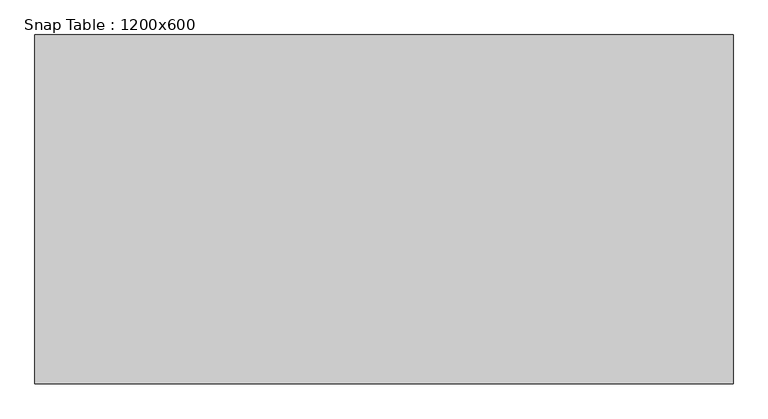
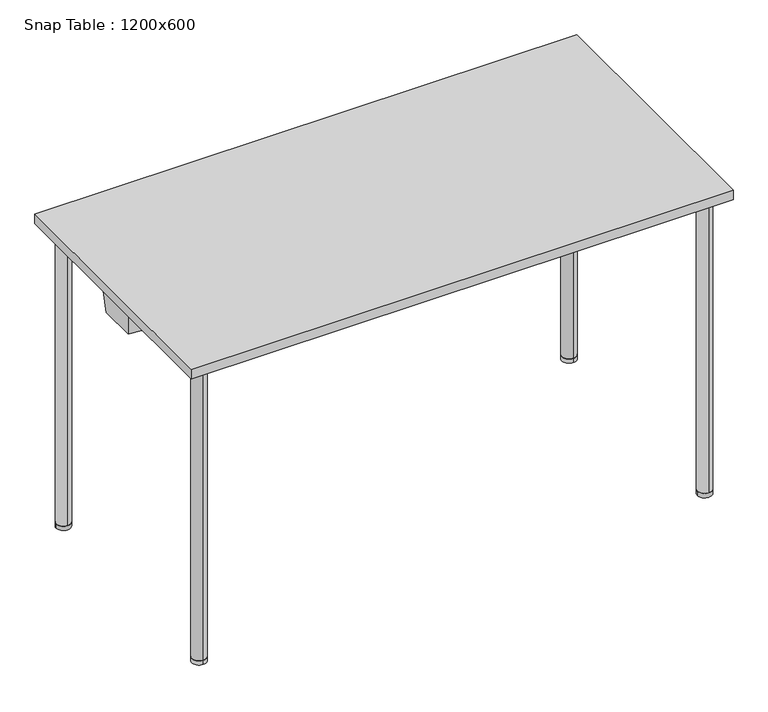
"""IFC4 building model written with IfcOpenShell, lengths in millimetres: furniture geometry, Snap Table : 1200x600."""

from ifc_helpers import new_model, si_unit, point, frame, frame_2d, origin, origin_with_axes, place, context, project, spatial, polyline, circle_curve, ellipse_curve, trimmed, segment, composite_curve, outline, extrude, faceted_brep, source, transform, mapped, element, save
from ifc_brep_helpers import plane_surface, cylinder_surface, revolved_surface, advanced_brep


def snap_table_1200x600_b6a384be(model_context):
    return source(origin(), model_context, "Body", "SolidModel", [
        extrude(outline(composite_curve([segment(trimmed(circle_curve(frame_2d((560.0, -260.0)), 16.0), [point((576.0, -260.0))], [point((544.0, -260.0))], False, "CARTESIAN"), True, "CONTINUOUS"), segment(trimmed(circle_curve(frame_2d((560.0, -260.0)), 16.0), [point((544.0, -260.0))], [point((576.0, -260.0))], False, "CARTESIAN"), True, "CONTINUOUS")], self_intersect=False)), origin_with_axes(), (0.0, 0.0, 1.0), 10.0),
        extrude(outline(composite_curve([segment(trimmed(circle_curve(frame_2d((560.0, 260.0)), 16.0), [point((560.0, 244.0))], [point((560.0, 276.0))], False, "CARTESIAN"), True, "CONTINUOUS"), segment(trimmed(circle_curve(frame_2d((560.0, 260.0)), 16.0), [point((560.0, 276.0))], [point((560.0, 244.0))], False, "CARTESIAN"), True, "CONTINUOUS")], self_intersect=False)), origin_with_axes(), (0.0, 0.0, 1.0), 10.0),
        advanced_brep(
        [(560.0, -276.0, 10.0), (560.0, -244.0, 10.0), (560.0, -276.0, 689.0), (560.0, -244.0, 657.0), (560.0, 276.0, 689.0), (560.0, 244.0, 657.0), (560.0, 276.0, 10.0), (560.0, 244.0, 10.0)],
        [
            (0, 1, circle_curve(frame((560.0, -260.0, 10.0), z_axis=(0.0, 0.0, -1.0), x_axis=(0.0, 1.0, 0.0)), 16.0)),
            (1, 0, circle_curve(frame((560.0, -260.0, 10.0), z_axis=(0.0, 0.0, -1.0), x_axis=(0.0, 1.0, 0.0)), 16.0)),
            (0, 2),
            (2, 3, ellipse_curve(frame((560.0, -260.0, 673.0), z_axis=(0.0, -0.7071067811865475, -0.7071067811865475), x_axis=(0.0, 0.7071067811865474, -0.7071067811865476)), 22.627417, 16.0)),
            (3, 1),
            (3, 2, ellipse_curve(frame((560.0, -260.0, 673.0), z_axis=(0.0, -0.7071067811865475, -0.7071067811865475), x_axis=(0.0, 0.7071067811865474, -0.7071067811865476)), 22.627417, 16.0)),
            (2, 4),
            (4, 5, ellipse_curve(frame((560.0, 260.0, 673.0), z_axis=(0.0, -0.7071067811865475, 0.7071067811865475), x_axis=(0.0, -0.7071067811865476, -0.7071067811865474)), 22.627417, 16.0)),
            (5, 3),
            (5, 4, ellipse_curve(frame((560.0, 260.0, 673.0), z_axis=(0.0, -0.7071067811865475, 0.7071067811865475), x_axis=(0.0, -0.7071067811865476, -0.7071067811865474)), 22.627417, 16.0)),
            (6, 7, circle_curve(frame((560.0, 260.0, 10.0), z_axis=(0.0, 0.0, -1.0), x_axis=(0.0, -1.0, 0.0)), 16.0)),
            (7, 6, circle_curve(frame((560.0, 260.0, 10.0), z_axis=(0.0, 0.0, -1.0), x_axis=(0.0, -1.0, 0.0)), 16.0)),
            (4, 6),
            (7, 5),
        ],
        [
            plane_surface(frame((560.0, -260.0, 10.0), z_axis=(0.0, 0.0, -1.0), x_axis=(-1.0, 0.0, 0.0))),
            cylinder_surface(frame((560.0, -260.0, 10.0), z_axis=(0.0, 0.0, -1.0), x_axis=(0.0, 1.0, 0.0)), 16.0),
            cylinder_surface(frame((560.0, -260.0, 673.0), z_axis=(0.0, -1.0, 0.0), x_axis=(0.0, 0.0, -1.0)), 16.0),
            plane_surface(frame((560.0, 260.0, 10.0), z_axis=(0.0, 0.0, -1.0), x_axis=(-1.0, 0.0, 0.0))),
            cylinder_surface(frame((560.0, 260.0, 673.0), z_axis=(0.0, 0.0, 1.0), x_axis=(0.0, -1.0, 0.0)), 16.0),
        ],
        [
            (0, [[1, 2]]),
            (1, [[-1, 3, 4, 5]]),
            (1, [[-2, -5, 6, -3]]),
            (2, [[-4, 7, 8, 9]]),
            (2, [[-6, -9, 10, -7]]),
            (3, [[11, 12]]),
            (4, [[-8, 13, -12, 14]]),
            (4, [[-10, -14, -11, -13]]),
        ],
    ),
        extrude(outline(composite_curve([segment(trimmed(circle_curve(frame_2d((-560.0470276, 260.0)), 16.0), [point((-576.0470276, 260.0))], [point((-544.0470276, 260.0))], False, "CARTESIAN"), True, "CONTINUOUS"), segment(trimmed(circle_curve(frame_2d((-560.0470276, 260.0)), 16.0), [point((-544.0470276, 260.0))], [point((-576.0470276, 260.0))], False, "CARTESIAN"), True, "CONTINUOUS")], self_intersect=False)), origin_with_axes(), (0.0, 0.0, 1.0), 10.0),
        extrude(outline(composite_curve([segment(trimmed(circle_curve(frame_2d((-560.0470276, -260.0)), 16.0), [point((-560.0470276, -244.0))], [point((-560.0470276, -276.0))], False, "CARTESIAN"), True, "CONTINUOUS"), segment(trimmed(circle_curve(frame_2d((-560.0470276, -260.0)), 16.0), [point((-560.0470276, -276.0))], [point((-560.0470276, -244.0))], False, "CARTESIAN"), True, "CONTINUOUS")], self_intersect=False)), origin_with_axes(), (0.0, 0.0, 1.0), 10.0),
        advanced_brep(
        [(-560.0470276, 276.0, 10.0), (-560.0470276, 244.0, 10.0), (-560.0470276, 276.0, 689.0), (-560.0470276, 244.0, 657.0), (-560.0470276, -276.0, 689.0), (-560.0470276, -244.0, 657.0), (-560.0470276, -276.0, 10.0), (-560.0470276, -244.0, 10.0)],
        [
            (0, 1, circle_curve(frame((-560.0470276, 260.0, 10.0), z_axis=(0.0, 0.0, -1.0), x_axis=(0.0, -1.0, 0.0)), 16.0)),
            (1, 0, circle_curve(frame((-560.0470276, 260.0, 10.0), z_axis=(0.0, 0.0, -1.0), x_axis=(0.0, -1.0, 0.0)), 16.0)),
            (0, 2),
            (2, 3, ellipse_curve(frame((-560.0470276, 260.0, 673.0), z_axis=(0.0, 0.7071067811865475, -0.7071067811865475), x_axis=(0.0, -0.7071067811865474, -0.7071067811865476)), 22.627417, 16.0)),
            (3, 1),
            (3, 2, ellipse_curve(frame((-560.0470276, 260.0, 673.0), z_axis=(0.0, 0.7071067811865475, -0.7071067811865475), x_axis=(0.0, -0.7071067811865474, -0.7071067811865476)), 22.627417, 16.0)),
            (2, 4),
            (4, 5, ellipse_curve(frame((-560.0470276, -260.0, 673.0), z_axis=(0.0, 0.7071067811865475, 0.7071067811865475), x_axis=(0.0, 0.7071067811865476, -0.7071067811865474)), 22.627417, 16.0)),
            (5, 3),
            (5, 4, ellipse_curve(frame((-560.0470276, -260.0, 673.0), z_axis=(0.0, 0.7071067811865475, 0.7071067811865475), x_axis=(0.0, 0.7071067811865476, -0.7071067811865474)), 22.627417, 16.0)),
            (6, 7, circle_curve(frame((-560.0470276, -260.0, 10.0), z_axis=(0.0, 0.0, -1.0), x_axis=(0.0, 1.0, 0.0)), 16.0)),
            (7, 6, circle_curve(frame((-560.0470276, -260.0, 10.0), z_axis=(0.0, 0.0, -1.0), x_axis=(0.0, 1.0, 0.0)), 16.0)),
            (4, 6),
            (7, 5),
        ],
        [
            plane_surface(frame((-560.0470276, 260.0, 10.0), z_axis=(0.0, 0.0, -1.0), x_axis=(1.0, 0.0, 0.0))),
            cylinder_surface(frame((-560.0470276, 260.0, 10.0), z_axis=(0.0, 0.0, -1.0), x_axis=(0.0, -1.0, 0.0)), 16.0),
            cylinder_surface(frame((-560.0470276, 260.0, 673.0), z_axis=(0.0, 1.0, 0.0), x_axis=(0.0, 0.0, -1.0)), 16.0),
            plane_surface(frame((-560.0470276, -260.0, 10.0), z_axis=(0.0, 0.0, -1.0), x_axis=(1.0, 0.0, 0.0))),
            cylinder_surface(frame((-560.0470276, -260.0, 673.0), z_axis=(0.0, 0.0, 1.0), x_axis=(0.0, 1.0, 0.0)), 16.0),
        ],
        [
            (0, [[1, 2]]),
            (1, [[-1, 3, 4, 5]]),
            (1, [[-2, -5, 6, -3]]),
            (2, [[-4, 7, 8, 9]]),
            (2, [[-6, -9, 10, -7]]),
            (3, [[11, 12]]),
            (4, [[-8, 13, -12, 14]]),
            (4, [[-10, -14, -11, -13]]),
        ],
    ),
        extrude(outline(polyline([(600.0, 300.0), (600.0, -300.0), (-600.0, -300.0), (-600.0, 300.0), (600.0, 300.0)])), frame((0.0, 0.0, 698.0), z_axis=(0.0, 0.0, 1.0), x_axis=(1.0, 0.0, 0.0)), (0.0, 0.0, 1.0), 22.0),
        advanced_brep(
        [(-590.8110657, 42.2236058, 643.0), (-557.6910354, 44.5767873, 643.0), (-540.5708933, 36.0824003, 643.0), (540.5710292, 36.0824678, 643.0), (557.6910354, 44.5767873, 643.0), (590.8110657, 42.2236058, 643.0), (590.8110657, -42.2236058, 643.0), (557.6044607, -44.2417031, 643.0), (540.4018781, -36.0497649, 643.0), (-540.4020196, -36.0498323, 643.0), (-557.6044607, -44.2417031, 643.0), (-590.8110657, -42.2236058, 643.0), (-594.8110657, 48.9570516, 698.0), (-594.8110657, -48.9934252, 698.0), (-556.225892, -51.3383995, 698.0), (-534.6205129, -41.049832, 698.0), (534.6203726, -41.0497653, 698.0), (556.225892, -51.3383995, 698.0), (594.8110657, -48.9934252, 698.0), (594.8110657, 48.9570516, 698.0), (556.286594, 51.6942192, 698.0), (534.8989768, 41.0824675, 698.0), (-534.8988421, 41.0824007, 698.0), (-556.286594, 51.6942192, 698.0), (-557.2475737, -46.0789118, 657.2385232), (-576.0, -46.9489596, 673.0), (-556.4614069, -50.125999, 688.6037931), (-544.0, -41.9922101, 673.0), (557.2475737, -46.0789118, 657.2385232), (544.0, -41.9922101, 673.0), (556.4614069, -50.125999, 688.6037931), (576.0, -46.9489596, 673.0), (557.3278029, 46.4175782, 657.2247231), (576.0, 47.1037405, 673.0), (556.5261576, 50.4801582, 688.618336), (544.0, 42.0461233, 673.0), (-557.3278029, 46.4175782, 657.2247231), (-544.0, 42.0461233, 673.0), (-556.5261576, 50.4801582, 688.618336), (-576.0, 47.1037405, 673.0)],
        [
            (0, 1),
            (1, 2),
            (2, 3),
            (3, 4),
            (4, 5),
            (5, 6),
            (6, 7),
            (7, 8),
            (8, 9),
            (9, 10),
            (10, 11),
            (11, 0),
            (12, 13),
            (13, 14),
            (14, 15),
            (15, 16),
            (16, 17),
            (17, 18),
            (18, 19),
            (19, 20),
            (20, 21),
            (21, 22),
            (22, 23),
            (23, 12),
            (11, 13),
            (12, 0),
            (10, 24),
            (24, 25, ellipse_curve(frame((-560.0, -47.9213432, 673.0), z_axis=(0.060176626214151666, 0.9901710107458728, 0.12625427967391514), x_axis=(0.42602826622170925, -0.13986196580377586, 0.893833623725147)), 16.1588249, 16.0)),
            (25, 26, ellipse_curve(frame((-560.0, -47.9213432, 673.0), z_axis=(0.060176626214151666, 0.9901710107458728, 0.12625427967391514), x_axis=(0.42602826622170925, -0.13986196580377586, 0.893833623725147)), 16.1588249, 16.0)),
            (26, 14),
            (9, 15),
            (26, 27, ellipse_curve(frame((-560.0, -49.6114737, 673.0), z_axis=(-0.426503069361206, 0.895631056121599, 0.1262542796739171), x_axis=(-0.8587935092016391, -0.4447977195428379, 0.2542217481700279)), 17.8644989, 16.0)),
            (27, 24, ellipse_curve(frame((-560.0, -49.6114737, 673.0), z_axis=(-0.426503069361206, 0.895631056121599, 0.1262542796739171), x_axis=(-0.8587935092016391, -0.4447977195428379, 0.2542217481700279)), 17.8644989, 16.0)),
            (8, 16),
            (7, 28),
            (28, 29, ellipse_curve(frame((560.0, -49.6114737, 673.0), z_axis=(0.42650306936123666, 0.8956310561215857, 0.1262542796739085), x_axis=(0.858793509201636, -0.4447977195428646, 0.2542217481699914)), 17.8644989, 16.0)),
            (29, 30, ellipse_curve(frame((560.0, -49.6114737, 673.0), z_axis=(0.42650306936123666, 0.8956310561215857, 0.1262542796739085), x_axis=(0.858793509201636, -0.4447977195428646, 0.2542217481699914)), 17.8644989, 16.0)),
            (30, 17),
            (6, 18),
            (30, 31, ellipse_curve(frame((560.0, -47.9213432, 673.0), z_axis=(-0.06017662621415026, 0.9901710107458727, 0.1262542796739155), x_axis=(-0.4260282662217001, -0.13986196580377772, 0.8938336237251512)), 16.1588249, 16.0)),
            (31, 28, ellipse_curve(frame((560.0, -47.9213432, 673.0), z_axis=(-0.06017662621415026, 0.9901710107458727, 0.1262542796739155), x_axis=(-0.4260282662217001, -0.13986196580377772, 0.8938336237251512)), 16.1588249, 16.0)),
            (5, 19),
            (4, 32),
            (32, 33, ellipse_curve(frame((560.0, 48.2405422, 673.0), z_axis=(-0.07030432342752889, -0.9895034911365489, 0.1262542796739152), x_axis=(0.48139832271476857, -0.14450896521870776, -0.8645072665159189)), 16.1697257, 16.0)),
            (33, 34, ellipse_curve(frame((560.0, 48.2405422, 673.0), z_axis=(-0.07030432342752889, -0.9895034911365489, 0.1262542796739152), x_axis=(0.48139832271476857, -0.14450896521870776, -0.8645072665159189)), 16.1697257, 16.0)),
            (34, 20),
            (3, 21),
            (34, 35, ellipse_curve(frame((560.0, 49.9847369, 673.0), z_axis=(0.44090536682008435, -0.8886294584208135, 0.12625427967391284), x_axis=(-0.8542943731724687, -0.45862586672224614, -0.24462918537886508)), 18.005255, 16.0)),
            (35, 32, ellipse_curve(frame((560.0, 49.9847369, 673.0), z_axis=(0.44090536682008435, -0.8886294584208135, 0.12625427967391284), x_axis=(-0.8542943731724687, -0.45862586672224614, -0.24462918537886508)), 18.005255, 16.0)),
            (2, 22),
            (1, 36),
            (36, 37, ellipse_curve(frame((-560.0, 49.9847369, 673.0), z_axis=(-0.4409053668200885, -0.8886294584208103, 0.12625427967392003), x_axis=(0.8542943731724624, -0.45862586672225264, -0.24462918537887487)), 18.005255, 16.0)),
            (37, 38, ellipse_curve(frame((-560.0, 49.9847369, 673.0), z_axis=(-0.4409053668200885, -0.8886294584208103, 0.12625427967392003), x_axis=(0.8542943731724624, -0.45862586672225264, -0.24462918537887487)), 18.005255, 16.0)),
            (38, 23),
            (38, 39, ellipse_curve(frame((-560.0, 48.2405422, 673.0), z_axis=(0.07030432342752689, -0.9895034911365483, 0.1262542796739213), x_axis=(-0.48139832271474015, -0.1445089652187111, -0.8645072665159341)), 16.1697257, 16.0)),
            (39, 36, ellipse_curve(frame((-560.0, 48.2405422, 673.0), z_axis=(0.07030432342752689, -0.9895034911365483, 0.1262542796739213), x_axis=(-0.48139832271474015, -0.1445089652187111, -0.8645072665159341)), 16.1697257, 16.0)),
            (35, 29),
            (31, 33),
            (39, 25),
            (27, 37),
        ],
        [
            plane_surface(frame((-5e-07, 0.0612866, 643.0), z_axis=(0.0, 0.0, -1.0), x_axis=(0.0, -1.0, 0.0))),
            plane_surface(frame((-5e-07, 0.0586803, 698.0), z_axis=(0.0, 0.0, 1.0), x_axis=(0.0, -1.0, 0.0))),
            plane_surface(frame((-594.8110657, -0.0181868, 698.0), z_axis=(-0.9973658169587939, 0.0, -0.07253569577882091), x_axis=(0.0, 1.0, 0.0))),
            plane_surface(frame((-575.5184789, -50.1659123, 698.0), z_axis=(-0.060176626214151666, -0.9901710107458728, -0.12625427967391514), x_axis=(-0.9981583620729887, 0.06066204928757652, 0.0))),
            plane_surface(frame((-545.4232025, -46.1941158, 698.0), z_axis=(0.426503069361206, -0.895631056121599, -0.1262542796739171), x_axis=(-0.9028557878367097, -0.4299435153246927, 0.0))),
            plane_surface(frame((-7.01e-05, -41.0497986, 698.0), z_axis=(6.211245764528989e-08, -0.9958932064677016, -0.09053574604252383), x_axis=(-0.9999999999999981, -6.236859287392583e-08, 0.0))),
            plane_surface(frame((545.4231323, -46.1940824, 698.0), z_axis=(-0.42650306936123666, -0.8956310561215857, -0.1262542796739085), x_axis=(-0.9028557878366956, 0.4299435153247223, 0.0))),
            plane_surface(frame((575.5184789, -50.1659123, 698.0), z_axis=(0.06017662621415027, -0.9901710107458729, -0.12625427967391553), x_axis=(-0.9981583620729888, -0.060662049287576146, 0.0))),
            plane_surface(frame((594.8110657, -0.0181868, 698.0), z_axis=(0.9973658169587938, 0.0, -0.07253569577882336), x_axis=(0.0, -1.0, 0.0))),
            plane_surface(frame((575.5488298, 50.3256354, 698.0), z_axis=(0.07030432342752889, 0.9895034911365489, -0.1262542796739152), x_axis=(0.9974854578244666, -0.07087144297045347, 0.0))),
            plane_surface(frame((545.5927854, 46.3883433, 698.0), z_axis=(-0.44090536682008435, 0.8886294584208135, -0.12625427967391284), x_axis=(0.8957977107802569, 0.44446199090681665, 0.0))),
            plane_surface(frame((6.73e-05, 41.082434, 698.0), z_axis=(-6.210942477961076e-08, 0.995893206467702, -0.09053574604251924), x_axis=(0.9999999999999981, 6.236554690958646e-08, 0.0))),
            plane_surface(frame((-545.5927181, 46.3883099, 698.0), z_axis=(0.44090536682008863, 0.8886294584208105, -0.12625427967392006), x_axis=(0.8957977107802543, -0.4444619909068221, 0.0))),
            plane_surface(frame((-575.5488298, 50.3256354, 698.0), z_axis=(-0.07030432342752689, 0.9895034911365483, -0.1262542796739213), x_axis=(0.9974854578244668, 0.07087144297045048, 0.0))),
            revolved_surface(polyline([(576.0, -57.55756207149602, 673.0), (576.0, 58.242412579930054, 673.0)]), (560.0, 70.0, 673.0), (0.0, -1.0, 0.0)),
            revolved_surface(polyline([(-576.0, -57.55756207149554, 673.0), (-576.0, 58.242412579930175, 673.0)]), (-560.0, 70.0, 673.0), (0.0, -1.0, 0.0)),
        ],
        [
            (0, [[1, 2, 3, 4, 5, 6, 7, 8, 9, 10, 11, 12]]),
            (1, [[13, 14, 15, 16, 17, 18, 19, 20, 21, 22, 23, 24]]),
            (2, [[-12, 25, -13, 26]]),
            (3, [[-11, 27, 28, 29, 30, -14, -25]]),
            (4, [[-10, 31, -15, -30, 32, 33, -27]]),
            (5, [[-9, 34, -16, -31]]),
            (6, [[-8, 35, 36, 37, 38, -17, -34]]),
            (7, [[-7, 39, -18, -38, 40, 41, -35]]),
            (8, [[-6, 42, -19, -39]]),
            (9, [[-5, 43, 44, 45, 46, -20, -42]]),
            (10, [[-4, 47, -21, -46, 48, 49, -43]]),
            (11, [[-3, 50, -22, -47]]),
            (12, [[-2, 51, 52, 53, 54, -23, -50]]),
            (13, [[-1, -26, -24, -54, 55, 56, -51]]),
            (14, [[57, -36, -41, 58, -44, -49]]),
            (14, [[-57, -48, -45, -58, -40, -37]]),
            (15, [[59, -28, -33, 60, -52, -56]]),
            (15, [[-59, -55, -53, -60, -32, -29]]),
        ],
    ),
        faceted_brep([(530.1271057, 182.1409864, 643.0), (530.1271057, 227.0366315, 643.0), (541.3990784, 227.0366315, 643.0), (541.3990784, 182.1409864, 643.0), (526.2186584, 178.0138349, 688.0), (544.2631531, 178.0138349, 688.0), (544.2631531, 231.163783, 688.0), (526.2186584, 231.163783, 688.0)], [[[0, 1, 2, 3]], [[4, 5, 6, 7]], [[5, 4, 0, 3]], [[6, 5, 3, 2]], [[7, 6, 2, 1]], [[4, 7, 1, 0]]]),
        extrude(outline(polyline([(526.2186584, 231.163783), (577.86026, 231.163783), (577.86026, 178.0138349), (526.2186584, 178.0138349), (526.2186584, 231.163783)])), frame((0.0, 0.0, 688.0), z_axis=(0.0, 0.0, 1.0), x_axis=(1.0, 0.0, 0.0)), (0.0, 0.0, 1.0), 10.0),
        faceted_brep([(530.1271057, -182.1409864, 643.0), (541.3990784, -182.1409864, 643.0), (541.3990784, -227.0366315, 643.0), (530.1271057, -227.0366315, 643.0), (526.2186584, -178.0138349, 688.0), (526.2186584, -231.163783, 688.0), (544.2631531, -231.163783, 688.0), (544.2631531, -178.0138349, 688.0)], [[[0, 1, 2, 3]], [[4, 5, 6, 7]], [[4, 7, 1, 0]], [[7, 6, 2, 1]], [[6, 5, 3, 2]], [[5, 4, 0, 3]]]),
        extrude(outline(polyline([(526.2186584, -231.163783), (526.2186584, -178.0138349), (577.86026, -178.0138349), (577.86026, -231.163783), (526.2186584, -231.163783)])), frame((0.0, 0.0, 688.0), z_axis=(0.0, 0.0, 1.0), x_axis=(1.0, 0.0, 0.0)), (0.0, 0.0, 1.0), 10.0),
        faceted_brep([(-530.1271057, 182.1409864, 643.0), (-541.3990784, 182.1409864, 643.0), (-541.3990784, 227.0366315, 643.0), (-530.1271057, 227.0366315, 643.0), (-526.2186584, 178.0138349, 688.0), (-526.2186584, 231.163783, 688.0), (-544.2631531, 231.163783, 688.0), (-544.2631531, 178.0138349, 688.0)], [[[0, 1, 2, 3]], [[4, 5, 6, 7]], [[4, 7, 1, 0]], [[7, 6, 2, 1]], [[6, 5, 3, 2]], [[5, 4, 0, 3]]]),
        extrude(outline(polyline([(-526.2186584, 231.163783), (-526.2186584, 178.0138349), (-577.86026, 178.0138349), (-577.86026, 231.163783), (-526.2186584, 231.163783)])), frame((0.0, 0.0, 688.0), z_axis=(0.0, 0.0, 1.0), x_axis=(1.0, 0.0, 0.0)), (0.0, 0.0, 1.0), 10.0),
        faceted_brep([(-530.1271057, -182.1409864, 643.0), (-530.1271057, -227.0366315, 643.0), (-541.3990784, -227.0366315, 643.0), (-541.3990784, -182.1409864, 643.0), (-526.2186584, -178.0138349, 688.0), (-544.2631531, -178.0138349, 688.0), (-544.2631531, -231.163783, 688.0), (-526.2186584, -231.163783, 688.0)], [[[0, 1, 2, 3]], [[4, 5, 6, 7]], [[5, 4, 0, 3]], [[6, 5, 3, 2]], [[7, 6, 2, 1]], [[4, 7, 1, 0]]]),
        extrude(outline(polyline([(-526.2186584, -231.163783), (-577.86026, -231.163783), (-577.86026, -178.0138349), (-526.2186584, -178.0138349), (-526.2186584, -231.163783)])), frame((0.0, 0.0, 688.0), z_axis=(0.0, 0.0, 1.0), x_axis=(1.0, 0.0, 0.0)), (0.0, 0.0, 1.0), 10.0),
    ])


if __name__ == "__main__":
    model = new_model("IFC4")
    model_context = context("Model", 3, world=origin())
    ifc_project = project(units=[si_unit("LENGTHUNIT", "METRE", prefix="MILLI")], contexts=[model_context])
    site = spatial("IfcSite", under=ifc_project)
    building = spatial("IfcBuilding", under=site)
    placement = place(None, origin())
    snap_table_1200x600_shape = snap_table_1200x600_b6a384be(model_context)
    element("IfcFurniture", 1, ObjectType="Snap Table : 1200x600", at=placement, inside=building, context=model_context, shape_type="MappedRepresentation", body=[
        mapped(snap_table_1200x600_shape, transform((0.0, 0.0, 0.0), x_axis=(1.0, 0.0, 0.0), y_axis=(0.0, 1.0, 0.0), z_axis=(0.0, 0.0, 1.0))),
    ])
    save(model, "model.ifc")
